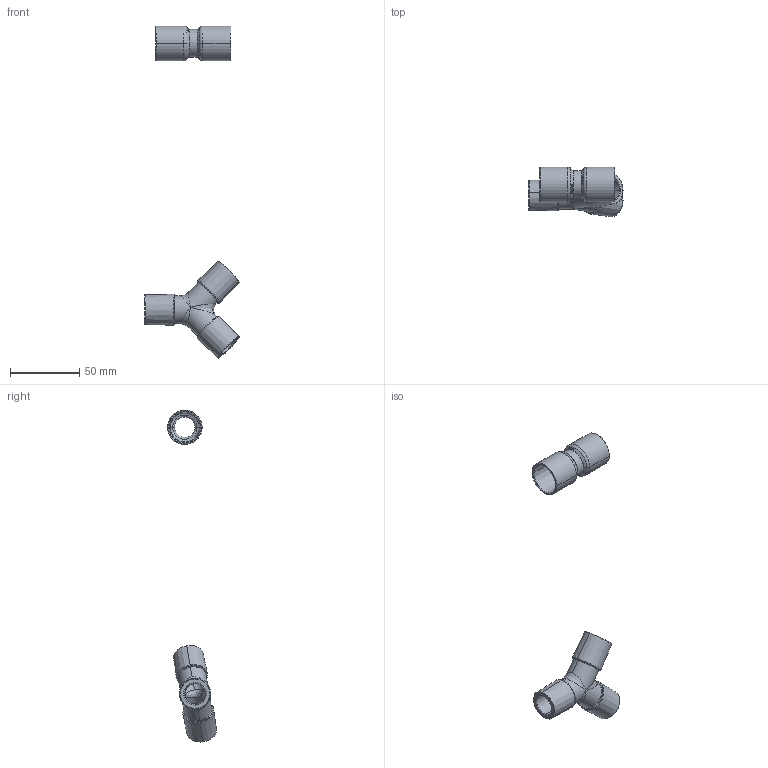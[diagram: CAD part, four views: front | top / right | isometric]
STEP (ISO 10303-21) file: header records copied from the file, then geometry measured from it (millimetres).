
FILE_DESCRIPTION(/* description */ (''),/* implementation_level */ '2;1');
FILE_NAME(/* name */ 'ISO 5356 M25 F22 - M25 F22_GgCV19.stp',/* time_stamp */ '2020-03-27T17:24:42+01:00',/* author */ (''),/* organization */ (''),/* preprocessor_version */ 'ST-DEVELOPER v16.7',/* originating_system */ 'SIEMENS PLM Software NX 12.0',/* authorisation */ '');
FILE_SCHEMA (('AUTOMOTIVE_DESIGN { 1 0 10303 214 3 1 1 1 }'));
Length unit declared in the file: millimetre
Products named in the file (1): ISO5356 - copia
Bounding box: 67.93 x 35.43 x 239.57 mm (x, y, z)
Volume: 25512.7 mm3; surface area: 20191.2 mm2
Topology: 2 solids, 2 shells, 499 faces, 1276 edges, 826 vertices
Faces by surface type: plane 286, extrusion 105, torus 52, cone 28, cylinder 22, bspline 6
Full cylindrical faces by diameter (mm): 14.67 x1, 20 x1
Entity records: 21077 total; most frequent: CARTESIAN_POINT 10125, ORIENTED_EDGE 2514, DIRECTION 1715, EDGE_CURVE 1257, VERTEX_POINT 826, B_SPLINE_CURVE_WITH_KNOTS 746, AXIS2_PLACEMENT_3D 605, EDGE_LOOP 569
